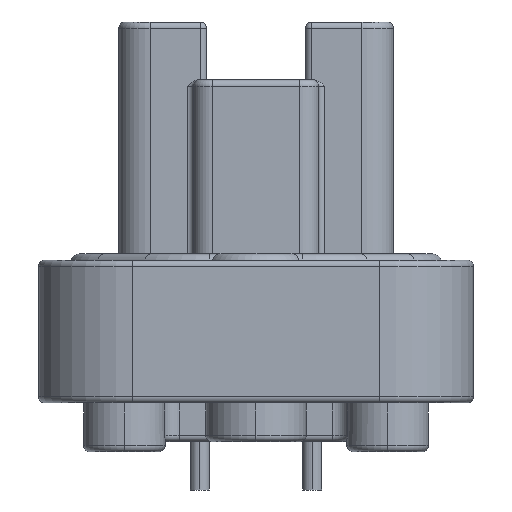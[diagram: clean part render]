
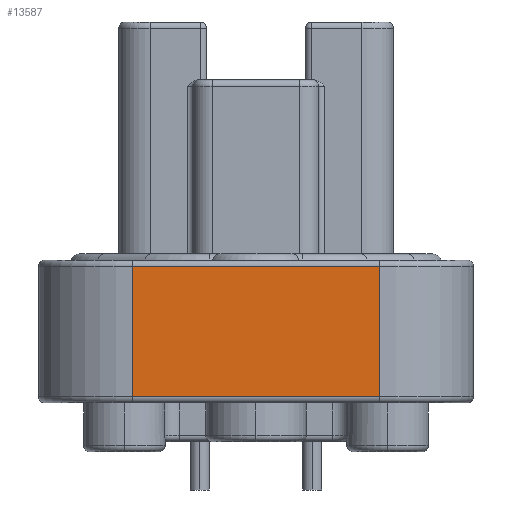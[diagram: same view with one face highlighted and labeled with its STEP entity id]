
A CAD part, left-side view. The second image highlights one B-rep face of the part: STEP entity #13587.
In plain terms, the highlighted planar face has unit normal (-1, 0, 0).
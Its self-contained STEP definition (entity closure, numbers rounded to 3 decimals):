
#2680=DIRECTION('',(0.,0.,-1.));
#2681=VECTOR('',#2680,10.541);
#2682=CARTESIAN_POINT('',(-29.604,10.008,-19.812));
#2683=LINE('',#2682,#2681);
#3449=DIRECTION('',(0.,1.,0.));
#3450=VECTOR('',#3449,20.015);
#3451=CARTESIAN_POINT('',(-29.604,-10.008,-30.353));
#3452=LINE('',#3451,#3450);
#3453=DIRECTION('',(0.,-1.,0.));
#3454=VECTOR('',#3453,20.015);
#3455=CARTESIAN_POINT('',(-29.604,10.008,-19.812));
#3456=LINE('',#3455,#3454);
#3457=DIRECTION('',(0.,0.,-1.));
#3458=VECTOR('',#3457,10.541);
#3459=CARTESIAN_POINT('',(-29.604,-10.008,-19.812));
#3460=LINE('',#3459,#3458);
#8899=CARTESIAN_POINT('',(-29.604,10.008,-19.812));
#8900=CARTESIAN_POINT('',(-29.604,-10.008,-19.812));
#8901=VERTEX_POINT('',#8899);
#8902=VERTEX_POINT('',#8900);
#8996=CARTESIAN_POINT('',(-29.604,-10.008,-30.353));
#8998=VERTEX_POINT('',#8996);
#9001=CARTESIAN_POINT('',(-29.604,10.008,-30.353));
#9002=VERTEX_POINT('',#9001);
#13575=CARTESIAN_POINT('',(-29.604,-10.008,-19.304));
#13576=DIRECTION('',(-1.,0.,0.));
#13577=DIRECTION('',(0.,1.,0.));
#13578=AXIS2_PLACEMENT_3D('',#13575,#13576,#13577);
#13579=PLANE('',#13578);
#13580=ORIENTED_EDGE('',*,*,#13569,.T.);
#13581=ORIENTED_EDGE('',*,*,#12768,.F.);
#13582=ORIENTED_EDGE('',*,*,#12654,.T.);
#13584=ORIENTED_EDGE('',*,*,#13583,.T.);
#13585=EDGE_LOOP('',(#13580,#13581,#13582,#13584));
#13586=FACE_OUTER_BOUND('',#13585,.F.);
#13587=ADVANCED_FACE('',(#13586),#13579,.T.);
#12654=EDGE_CURVE('',#8901,#8902,#3456,.T.);
#12768=EDGE_CURVE('',#8901,#9002,#2683,.T.);
#13569=EDGE_CURVE('',#8998,#9002,#3452,.T.);
#13583=EDGE_CURVE('',#8902,#8998,#3460,.T.);
